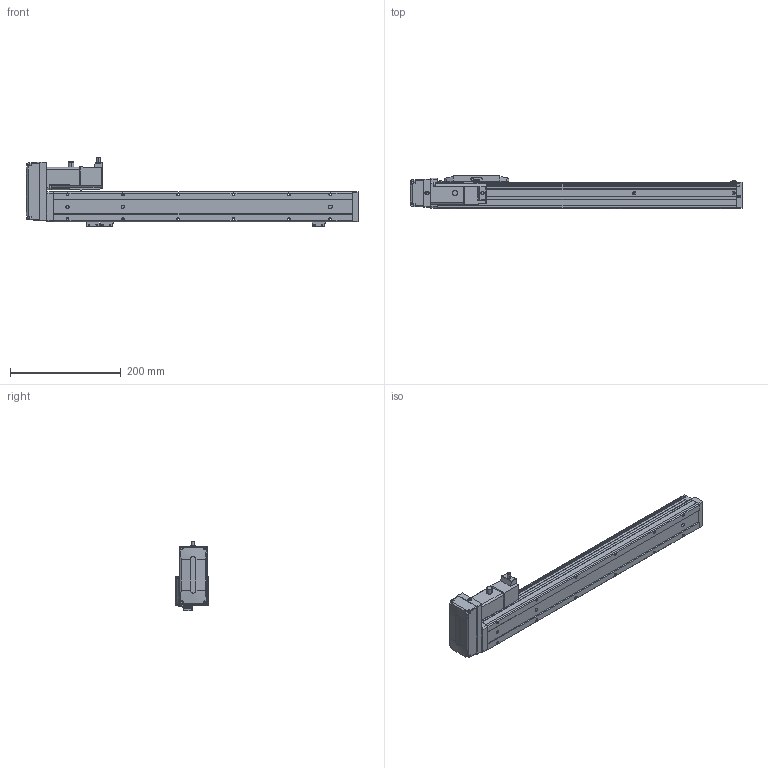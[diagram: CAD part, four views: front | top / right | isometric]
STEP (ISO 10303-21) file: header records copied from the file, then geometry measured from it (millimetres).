
FILE_DESCRIPTION (( 'STEP AP203' ), '1' );
FILE_NAME ('CTH5-L10-S400-BL-C10(¼ò).STEP', '2023-02-04T02:15:49', ( '' ), ( '' ), 'SwSTEP 2.0', 'SolidWorks 2018', '' );
FILE_SCHEMA (( 'CONFIG_CONTROL_DESIGN' ));
Length unit declared in the file: millimetre
Products named in the file (21): CTH5耜晚蹟隊-1; CTH5-L10-S400-BL-C10(潠); CTH5-BL-T10_body5; CTH嫖萇羲壽假蚾啣; 100W萇儂; CTH5耜晚蹟隊; CTH5綴耜啣; CTH5覜茼え; CTH5賑怢-2; M3｡｣; CTH5菁釱-L540; CTH100W假蚾啣; 葩璃 蚾饜极13^CTH8-L10-S50-BM-C40(潠)1; T10-p1; 嫖萇羲壽郪磁1; hex nuts, style 1-grades ab gb_GB_FASTENER_NUT_SNAB1 M3-N; 内六角圆柱头螺钉M3-2; CTH5耜蚾蟀諉啣(潠); CTH5ヶ耜啣(潠); PM-Y45; CTH5耜蚾欶
Assembly tree (35 placements, depth 3):
  CTH5-L10-S400-BL-C10(潠)
    CTH5綴耜啣
    CTH5賑怢-2
    CTH5ヶ耜啣(潠)
    CTH5菁釱-L540
    CTH5耜晚蹟隊  x2
    CTH5覜茼え
    CTH5耜晚蹟隊-1  x3
    CTH5耜蚾蟀諉啣(潠)
    CTH5耜蚾欶
      CTH5-BL-T10_body5
    100W萇儂
      T10-p1
    CTH100W假蚾啣
    葩璃 蚾饜极13^CTH8-L10-S50-BM-C40(潠)1  x2
      CTH嫖萇羲壽假蚾啣
      PM-Y45
      内六角圆柱头螺钉M3-2
      M3｡｣
      hex nuts, style 1-grades ab gb_GB_FASTENER_NUT_SNAB1 M3-N
    嫖萇羲壽郪磁1
      CTH嫖萇羲壽假蚾啣
      PM-Y45
      M3｡｣  x2
      内六角圆柱头螺钉M3-2  x2
      hex nuts, style 1-grades ab gb_GB_FASTENER_NUT_SNAB1 M3-N  x2
Bounding box: 600 x 60 x 126.31 mm (x, y, z)
Volume: 1558565.9 mm3; surface area: 233068.7 mm2
Topology: 38 solids, 38 shells, 1584 faces, 3975 edges, 2568 vertices
Faces by surface type: plane 881, cylinder 464, cone 183, torus 38, bspline 18
Entity records: 36924 total; most frequent: CARTESIAN_POINT 6861, DIRECTION 5837, ORIENTED_EDGE 5622, EDGE_CURVE 2811, AXIS2_PLACEMENT_3D 2003, VECTOR 1831, LINE 1831, VERTEX_POINT 1812
